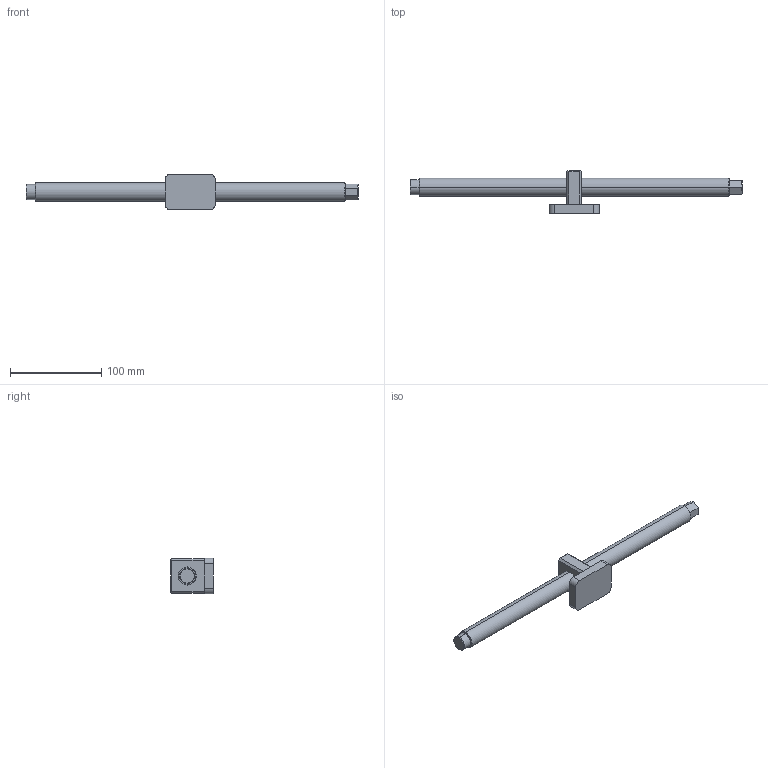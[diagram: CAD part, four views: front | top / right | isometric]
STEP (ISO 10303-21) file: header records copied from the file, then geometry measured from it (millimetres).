
FILE_DESCRIPTION (( 'STEP AP214' ), '1' );
FILE_NAME ('4825364.STEP', '2025-03-20T12:11:36', ( '' ), ( '' ), 'SwSTEP 2.0', 'SolidWorks 2021', '' );
FILE_SCHEMA (( 'AUTOMOTIVE_DESIGN' ));
Length unit declared in the file: millimetre
Products named in the file (1): 4825364
Bounding box: 364 x 46.85 x 39 mm (x, y, z)
Volume: 149520.7 mm3; surface area: 31523 mm2
Topology: 1 solids, 1 shells, 68 faces, 154 edges, 94 vertices
Faces by surface type: plane 52, cylinder 10, cone 6
Entity records: 2341 total; most frequent: DIRECTION 318, CARTESIAN_POINT 317, ORIENTED_EDGE 308, EDGE_CURVE 154, VECTOR 128, LINE 128, AXIS2_PLACEMENT_3D 95, VERTEX_POINT 94
